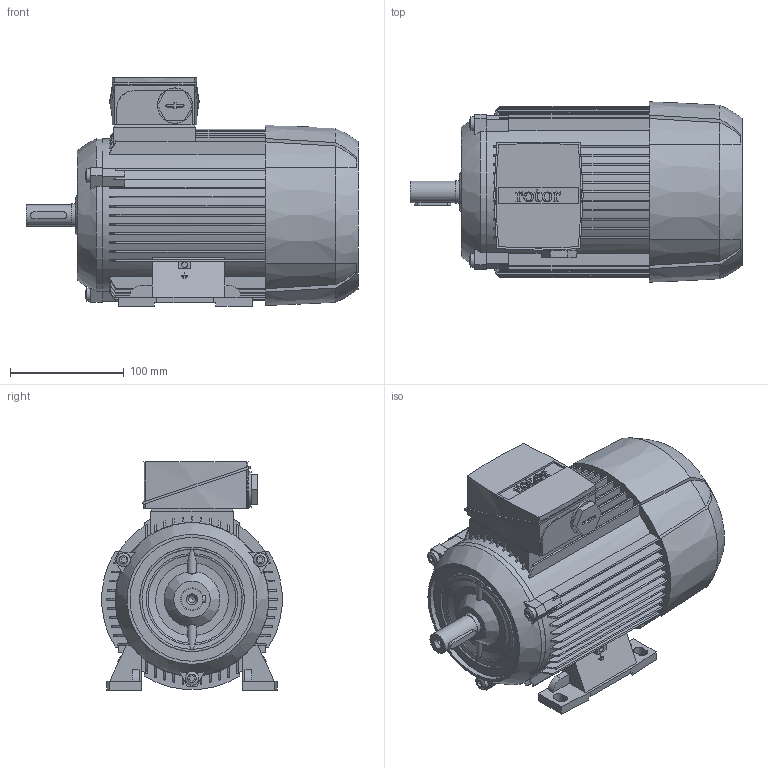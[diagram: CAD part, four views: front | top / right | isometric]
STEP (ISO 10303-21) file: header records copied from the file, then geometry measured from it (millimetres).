
FILE_DESCRIPTION (( 'STEP AP214' ), '1' );
FILE_NAME ('6RN80M02E12 IM1041.STEP', '2017-03-13T08:04:30', ( 'rbc_ict' ), ( '' ), 'SwSTEP 2.0', 'SolidWorks 2015', '' );
FILE_SCHEMA (( 'AUTOMOTIVE_DESIGN' ));
Length unit declared in the file: millimetre
Products named in the file (1): 6RN80M02E12 IM1041
Bounding box: 292 x 158.5 x 201 mm (x, y, z)
Volume: 4346612.4 mm3; surface area: 283380.3 mm2
Topology: 7 solids, 7 shells, 628 faces, 1754 edges, 1163 vertices
Faces by surface type: plane 407, cylinder 103, bspline 103, cone 15
Full cylindrical faces by diameter (mm): 5 x2, 6 x1, 12 x3, 19 x1, 20 x1, 31 x1, 109 x1
Entity records: 29626 total; most frequent: CARTESIAN_POINT 8249, ORIENTED_EDGE 3450, DIRECTION 2777, EDGE_CURVE 1725, VERTEX_POINT 1153, VECTOR 1097, LINE 1097, AXIS2_PLACEMENT_3D 840
